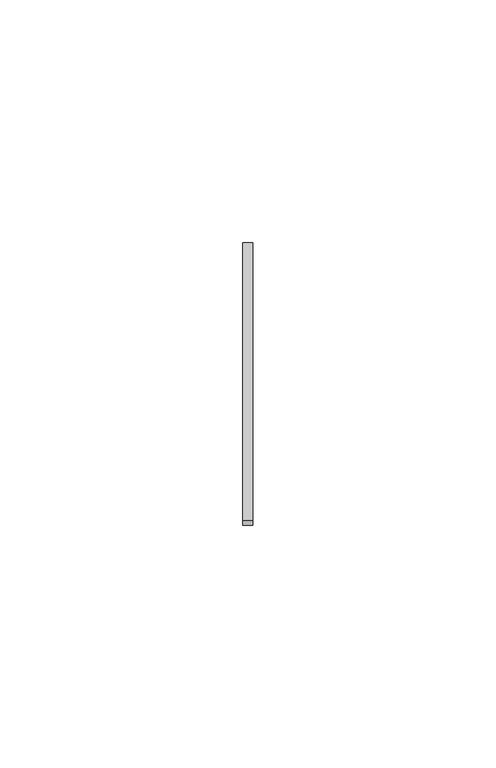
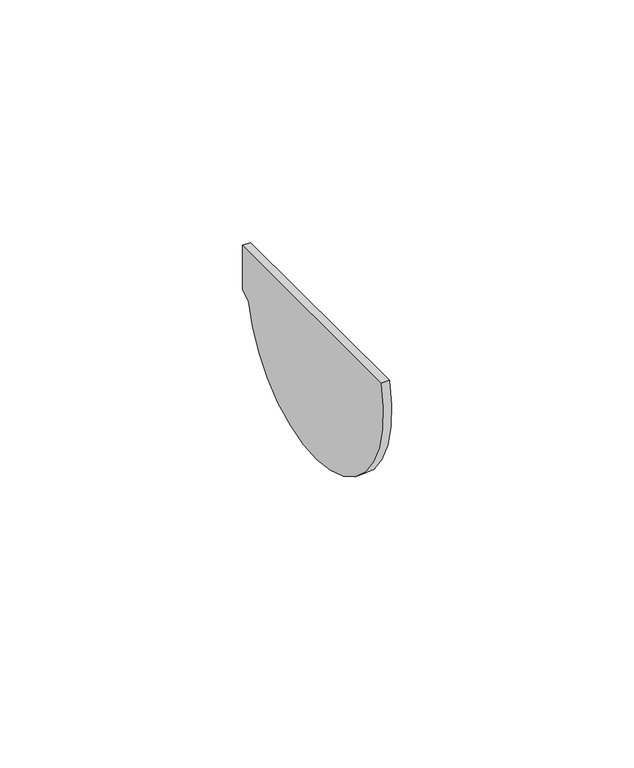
"""IFC4 building model written with IfcOpenShell, lengths in millimetres: proxy geometry, Odbojnik przyścienny R50 : Odbojnik przyścienny R50."""

from ifc_helpers import new_model, si_unit, point, frame, frame_2d, origin, place, context, project, spatial, polyline, circle_curve, trimmed, segment, composite_curve, outline, extrude, source, transform, mapped, element, save


def generic_models_8ea34007(model_context):
    return source(origin(), model_context, "Body", "SweptSolid", [
        extrude(outline(composite_curve([segment(polyline([(1.3086502, 6.3725229), (58.4415442, 6.3725229), (58.4415442, -4.7599435), (55.8514453, -6.1371239)]), True, "CONTINUOUS"), segment(trimmed(circle_curve(frame_2d((28.3405193, -0.9266588)), 28.0), [point((55.8514453, -6.1371239))], [point((1.3086502, 6.3725229))], False, "CARTESIAN"), True, "CONTINUOUS")], self_intersect=False)), frame((-3.0, 0.0, 0.0), z_axis=(1.0, 0.0, 0.0), x_axis=(0.0, 1.0, 0.0)), (0.0, 0.0, 1.0), 2.0),
    ])


if __name__ == "__main__":
    model = new_model("IFC4")
    model_context = context("Model", 3, world=origin())
    ifc_project = project(units=[si_unit("LENGTHUNIT", "METRE", prefix="MILLI")], contexts=[model_context])
    site = spatial("IfcSite", under=ifc_project)
    building = spatial("IfcBuilding", under=site)
    placement = place(None, origin())
    generic_models_shape = generic_models_8ea34007(model_context)
    element("IfcBuildingElementProxy", 1, Name="Odbojnik przyścienny R50 : Odbojnik przyścienny R50", ObjectType="Odbojnik przyścienny R50 : Odbojnik przyścienny R50", at=placement, inside=building, context=model_context, shape_type="MappedRepresentation", body=[
        mapped(generic_models_shape, transform((0.0, 0.0, 0.0), x_axis=(1.0, 0.0, 0.0), y_axis=(0.0, 1.0, 0.0), z_axis=(0.0, 0.0, 1.0))),
    ])
    save(model, "model.ifc")
